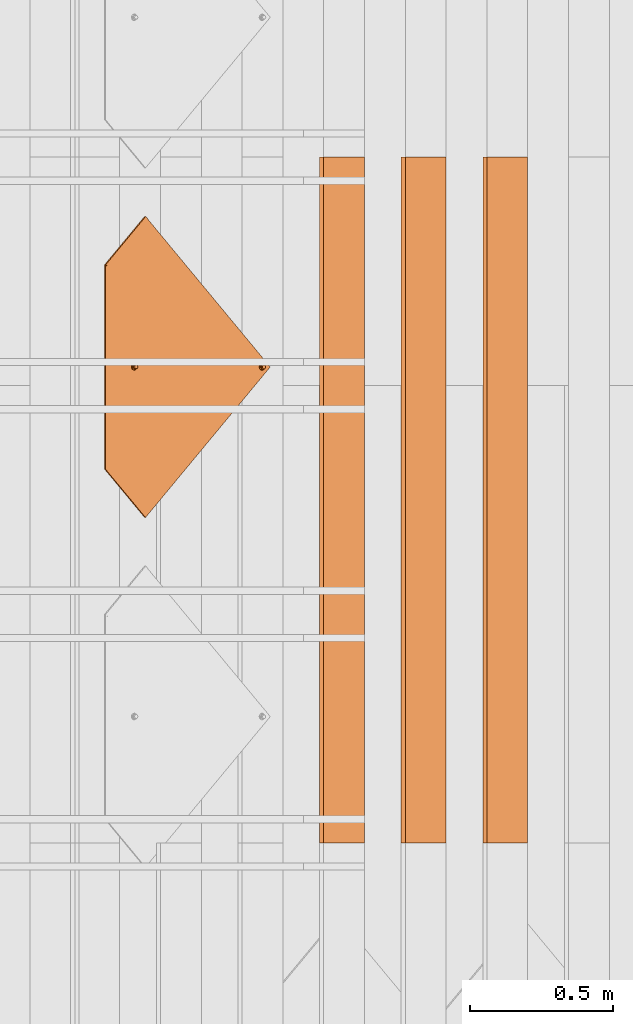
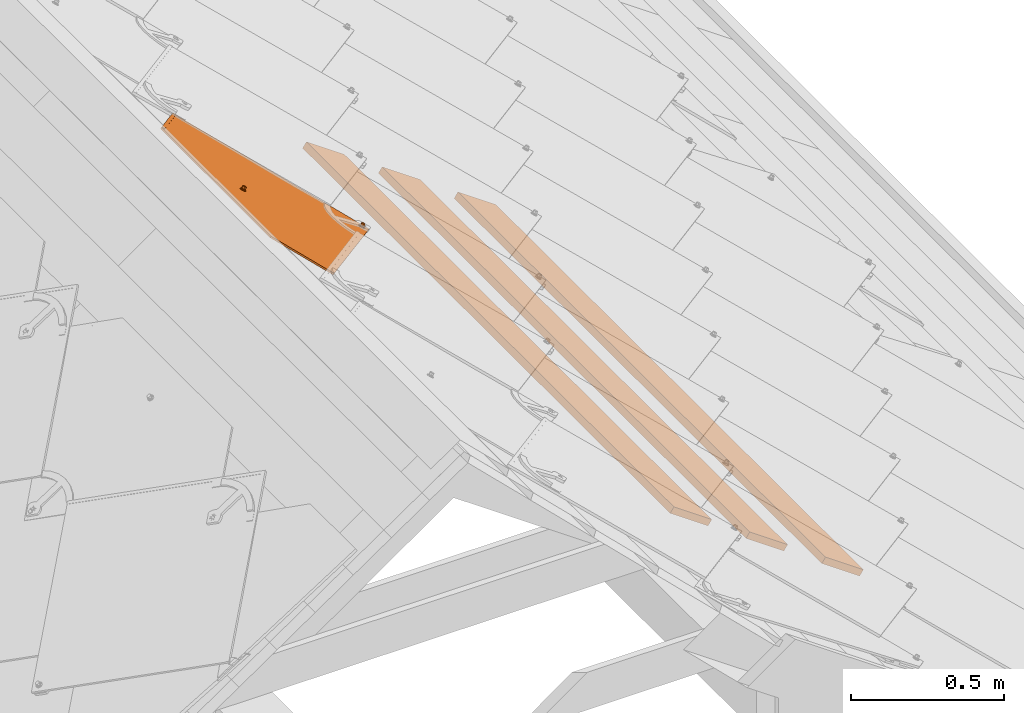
# One storey, part 35 of 151: 4 proxies, 1 element without a shape of its own.
"""IFC2X3 building model written with IfcOpenShell, lengths in millimetres."""

from ifc_helpers import new_model, entity, si_unit, converted_unit, derived_unit, direction, frame, frame_2d, origin, place, context, subcontext, project, spatial, rectangle, extrude, faceted_brep, source, transform, mapped, material, material_list, type_object, type_shapes, element, aggregate, save


model = new_model("IFC2X3")

# Units and contexts
model_context = context("Model", 3, precision=0.01, world=origin(), true_north=direction((6.12303176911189e-17, 1.0)))
body_context = subcontext(model_context, "Body", "Model", "MODEL_VIEW")
ifc_project = project(units=[si_unit("LENGTHUNIT", "METRE", prefix="MILLI"), si_unit("AREAUNIT", "SQUARE_METRE"), si_unit("VOLUMEUNIT", "CUBIC_METRE"), converted_unit("PLANEANGLEUNIT", "DEGREE", entity("IfcRatioMeasure", 0.0174532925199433), si_unit("PLANEANGLEUNIT", "RADIAN"), dimensions=[0, 0, 0, 0, 0, 0, 0]), si_unit("MASSUNIT", "GRAM", prefix="KILO"), derived_unit("MASSDENSITYUNIT", [(si_unit("MASSUNIT", "GRAM", prefix="KILO"), 1), (si_unit("LENGTHUNIT", "METRE"), -3)]), si_unit("TIMEUNIT", "SECOND"), si_unit("FREQUENCYUNIT", "HERTZ"), si_unit("THERMODYNAMICTEMPERATUREUNIT", "DEGREE_CELSIUS"), derived_unit("THERMALTRANSMITTANCEUNIT", [(si_unit("MASSUNIT", "GRAM", prefix="KILO"), 1), (si_unit("THERMODYNAMICTEMPERATUREUNIT", "KELVIN"), -1), (si_unit("TIMEUNIT", "SECOND"), -3)]), derived_unit("VOLUMETRICFLOWRATEUNIT", [(si_unit("LENGTHUNIT", "METRE"), 3), (si_unit("TIMEUNIT", "SECOND"), -1)]), si_unit("ELECTRICCURRENTUNIT", "AMPERE"), si_unit("ELECTRICVOLTAGEUNIT", "VOLT"), si_unit("POWERUNIT", "WATT"), si_unit("FORCEUNIT", "NEWTON", prefix="KILO"), si_unit("ILLUMINANCEUNIT", "LUX"), si_unit("LUMINOUSFLUXUNIT", "LUMEN"), si_unit("LUMINOUSINTENSITYUNIT", "CANDELA"), derived_unit("USERDEFINED", [(si_unit("MASSUNIT", "GRAM", prefix="KILO"), -1), (si_unit("LENGTHUNIT", "METRE"), -2), (si_unit("TIMEUNIT", "SECOND"), 3), (si_unit("LUMINOUSFLUXUNIT", "LUMEN"), 1)]), derived_unit("LINEARVELOCITYUNIT", [(si_unit("LENGTHUNIT", "METRE"), 1), (si_unit("TIMEUNIT", "SECOND"), -1)]), si_unit("PRESSUREUNIT", "PASCAL"), derived_unit("USERDEFINED", [(si_unit("LENGTHUNIT", "METRE"), -2), (si_unit("MASSUNIT", "GRAM", prefix="KILO"), 1), (si_unit("TIMEUNIT", "SECOND"), -2)])], contexts=[model_context])

# Site, building, storey
site_placement = place(None, origin())
site = spatial("IfcSite", under=ifc_project, at=site_placement, Name="Default", CompositionType="ELEMENT")
building_placement = place(site_placement, origin())
building = spatial("IfcBuilding", under=site, at=building_placement, CompositionType="ELEMENT")
storey_placement = place(building_placement, origin())
storey = spatial("IfcBuildingStorey", under=building, at=storey_placement, Name="Level 1", CompositionType="ELEMENT", Elevation=0.0)

# Assembly, proxies
assembly_placement = place(storey_placement, origin())
assembly = element("IfcElementAssembly", 1, at=assembly_placement, inside=storey, Name="Structural Framing Assembly:Roof Construction Assembly", ObjectType="Structural Framing Assembly:Roof Construction Assembly", AssemblyPlace="NOTDEFINED", PredefinedType="USERDEFINED")
ifc_material_1 = material(Name="Wood - Generic - Wood For Showcase")
building_element_proxy_type_1 = type_object("IfcBuildingElementProxyType", Name="Structural Framing 15", PredefinedType="NOTDEFINED", material=ifc_material_1)
shared_shape_1 = source(origin(), body_context, "Body", "SweptSolid", [
    extrude(rectangle(XDim=24.9999999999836, YDim=174.344679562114, at=frame_2d((2.97539770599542e-13, -4.2632564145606e-14), x_axis=(1.0, 0.0))), frame((1285.35601305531, 1525.55080214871, 2760.23940055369), z_axis=(0.0, 1.0, 0.0), x_axis=(0.573576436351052, 0.0, 0.819152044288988)), (0.0, 0.0, 1.0), 2400.0),
])
type_shapes(building_element_proxy_type_1, [shared_shape_1])
proxy_1_placement = place(assembly_placement, frame((914.376675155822, -7270.0, -600.0)))
proxy_1 = element("IfcBuildingElementProxy", 2, at=proxy_1_placement, type_object=building_element_proxy_type_1, material=ifc_material_1, Name="Structural Framing 188:Structural Framing 15", ObjectType="Structural Framing 188:Structural Framing 15", context=body_context, shape_type="MappedRepresentation", body=[
    mapped(shared_shape_1, transform((0.0, 0.0, 0.0), scale=1.0)),
])
building_element_proxy_type_2 = type_object("IfcBuildingElementProxyType", Name="Structural Framing 15", PredefinedType="NOTDEFINED", material=ifc_material_1)
shared_shape_2 = source(origin(), body_context, "Body", "SweptSolid", [
    extrude(rectangle(XDim=24.9999999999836, YDim=174.344679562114, at=frame_2d((2.97539770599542e-13, -4.2632564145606e-14), x_axis=(1.0, 0.0))), frame((1285.35601305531, 1525.55080214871, 2760.23940055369), z_axis=(0.0, 1.0, 0.0), x_axis=(0.573576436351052, 0.0, 0.819152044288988)), (0.0, 0.0, 1.0), 2400.0),
])
type_shapes(building_element_proxy_type_2, [shared_shape_2])
proxy_2_placement = place(assembly_placement, frame((1200.00627650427, -7270.0, -800.0)))
proxy_2 = element("IfcBuildingElementProxy", 3, at=proxy_2_placement, type_object=building_element_proxy_type_2, material=ifc_material_1, Name="Structural Framing 198:Structural Framing 15", ObjectType="Structural Framing 198:Structural Framing 15", context=body_context, shape_type="MappedRepresentation", body=[
    mapped(shared_shape_2, transform((0.0, 0.0, 0.0), scale=1.0)),
])
building_element_proxy_type_3 = type_object("IfcBuildingElementProxyType", Name="Structural Framing 15", PredefinedType="NOTDEFINED", material=ifc_material_1)
shared_shape_3 = source(origin(), body_context, "Body", "SweptSolid", [
    extrude(rectangle(XDim=24.9999999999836, YDim=174.344679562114, at=frame_2d((2.97539770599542e-13, -4.2632564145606e-14), x_axis=(1.0, 0.0))), frame((1285.35601305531, 1525.55080214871, 2760.23940055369), z_axis=(0.0, 1.0, 0.0), x_axis=(0.573576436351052, 0.0, 0.819152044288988)), (0.0, 0.0, 1.0), 2400.0),
])
type_shapes(building_element_proxy_type_3, [shared_shape_3])
proxy_3_placement = place(assembly_placement, frame((1485.63587785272, -7270.0, -1000.0)))
proxy_3 = element("IfcBuildingElementProxy", 4, at=proxy_3_placement, type_object=building_element_proxy_type_3, material=ifc_material_1, Name="Structural Framing 208:Structural Framing 15", ObjectType="Structural Framing 208:Structural Framing 15", context=body_context, shape_type="MappedRepresentation", body=[
    mapped(shared_shape_3, transform((0.0, 0.0, 0.0), scale=1.0)),
])
aggregate(assembly, [proxy_1, proxy_2, proxy_3])

# Proxy
ifc_material_2 = material(Name="Rubber - Sunstyle - Black")
ifc_material_3 = material(Name="Glass - Sunstyle - Tainted Black")
ifc_material_list_1 = material_list([ifc_material_2, ifc_material_3])
ifc_material_list_2 = material_list([ifc_material_2, ifc_material_3])
building_element_proxy_type_4 = type_object("IfcBuildingElementProxyType", Name="Shingle Top - Black", PredefinedType="NOTDEFINED", material=ifc_material_list_2)
shared_shape_4 = source(origin(), body_context, "Body", "Brep", [
    faceted_brep([(-518.396436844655, -96.9865733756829, 16.4476231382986), (-518.396436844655, -96.9614556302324, 17.9474128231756), (-526.881123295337, -88.4767691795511, 17.8053154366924), (-526.881123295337, -88.5018869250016, 16.3055257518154), (-376.996804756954, 61.3404039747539, 13.7960402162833), (-368.512118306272, 52.8557175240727, 13.9381376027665), (-376.996804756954, 61.3655217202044, 15.2958299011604), (-368.512118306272, 52.8808352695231, 15.4379272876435)], [[[0, 1, 2, 3]], [[0, 3, 4, 5]], [[3, 2, 6, 4]], [[2, 1, 7, 6]], [[1, 0, 5, 7]], [[5, 4, 6, 7]]]),
    faceted_brep([(0.166366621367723, -33.6374645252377, -4.47296585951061), (-5.6078362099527, -36.9707346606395, -4.4171418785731), (-5.60783620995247, -36.6024255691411, 17.5747274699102), (0.166366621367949, -33.2691554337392, 17.5189034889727), (-5.60783620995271, -43.6372749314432, -4.30549391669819), (-5.60783620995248, -43.2689658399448, 17.6863754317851), (0.166366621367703, -46.9705450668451, -4.24966993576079), (0.166366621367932, -46.6022359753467, 17.7421994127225), (5.94056945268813, -43.6372749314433, -4.30549391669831), (5.94056945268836, -43.2689658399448, 17.686375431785), (5.94056945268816, -36.9707346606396, -4.41714187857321), (5.94056945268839, -36.6024255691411, 17.5747274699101), (-8.43733754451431, -48.5381935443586, 17.774621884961), (0.16636662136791, -52.1014648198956, 17.8342978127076), (-12.0011084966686, -39.9356957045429, 17.6305514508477), (-8.43733754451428, -31.3331978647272, 17.4864810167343), (0.166366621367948, -27.7699265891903, 17.4268050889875), (8.77007078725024, -31.3331978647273, 17.4864810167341), (12.3338417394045, -39.935695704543, 17.6305514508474), (8.77007078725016, -48.5381935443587, 17.7746218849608), (-11.1578780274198, -37.6406185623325, 19.9433933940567), (-9.59010793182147, -39.8646808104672, 21.8708760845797), (0.166366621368, -32.5516055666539, 22.5035764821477), (0.166366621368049, -31.3111079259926, 21.9232298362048), (0.166366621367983, -29.1535570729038, 20.9138547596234), (0.166366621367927, -51.5454208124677, 19.1093557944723), (0.166366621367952, -50.6018442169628, 21.273060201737), (0.166366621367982, -47.1524685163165, 22.7481046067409), (0.166366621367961, -28.2829626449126, 18.7197675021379), (-6.15687907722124, -43.5022527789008, 22.6869725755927), (-6.15687907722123, -36.2018213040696, 22.5647085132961), (11.4906112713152, -42.1520387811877, 20.0189484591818), (10.0152467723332, -40.9390872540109, 21.7920079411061), (6.48961231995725, -36.2018213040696, 22.564708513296), (6.48961231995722, -43.5022527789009, 22.6869725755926), (-6.15687907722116, -43.3682243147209, 30.68986075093), (0.166366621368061, -47.0184400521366, 30.7509927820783), (0.166366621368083, -39.7180085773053, 30.6287287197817), (-6.15687907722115, -36.0677928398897, 30.5675966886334), (6.48961231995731, -43.368224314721, 30.6898607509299), (6.48961231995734, -36.0677928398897, 30.5675966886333), (0.166366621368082, -32.417577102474, 30.5064646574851), (0.166366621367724, -40.3040047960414, -4.36131789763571)], [[[0, 1, 2, 3]], [[1, 4, 5, 2]], [[4, 6, 7, 5]], [[6, 8, 9, 7]], [[8, 10, 11, 9]], [[10, 0, 3, 11]], [[12, 7, 13]], [[7, 12, 5]], [[14, 5, 12]], [[5, 14, 2]], [[15, 2, 14]], [[3, 2, 15]], [[15, 16, 3]], [[16, 17, 3]], [[11, 3, 17]], [[11, 17, 18]], [[9, 11, 18]], [[18, 19, 9]], [[7, 9, 19]], [[19, 13, 7]], [[20, 14, 12]], [[21, 22, 23, 24]], [[24, 20, 21]], [[25, 20, 12]], [[26, 27, 21]], [[15, 14, 20]], [[12, 13, 25]], [[20, 28, 15]], [[28, 20, 24]], [[21, 27, 29]], [[21, 29, 30]], [[26, 21, 20]], [[20, 25, 26]], [[15, 28, 16]], [[21, 30, 22]], [[31, 18, 17]], [[28, 31, 17]], [[32, 27, 26]], [[26, 31, 32]], [[26, 25, 31]], [[25, 19, 31]], [[17, 16, 28]], [[31, 19, 18]], [[24, 31, 28]], [[33, 34, 32]], [[23, 22, 33]], [[24, 32, 31]], [[27, 32, 34]], [[32, 23, 33]], [[19, 25, 13]], [[32, 24, 23]], [[35, 36, 37]], [[37, 38, 35]], [[36, 39, 37]], [[40, 37, 39]], [[37, 40, 41]], [[37, 41, 38]], [[42, 6, 4]], [[4, 1, 42]], [[1, 0, 42]], [[42, 8, 6]], [[0, 10, 42]], [[8, 42, 10]], [[22, 30, 38, 41]], [[30, 29, 35, 38]], [[29, 27, 36, 35]], [[27, 34, 39, 36]], [[34, 33, 40, 39]], [[33, 22, 41, 40]]]),
    faceted_brep([(0.0, -573.927138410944, 4.00636906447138), (-5.77420283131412, -577.260408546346, 4.0621930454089), (-5.77420283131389, -576.892099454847, 26.0540623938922), (0.0, -573.558829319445, 25.9982384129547), (-5.77420283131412, -583.926948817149, 4.1738410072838), (-5.7742028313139, -583.558639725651, 26.1657103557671), (0.0, -587.260218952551, 4.2296649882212), (0.0, -586.891909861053, 26.2215343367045), (5.77420283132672, -583.926948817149, 4.17384100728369), (5.77420283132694, -583.558639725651, 26.165710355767), (5.77420283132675, -577.260408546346, 4.06219304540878), (5.77420283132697, -576.892099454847, 26.0540623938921), (-8.60370416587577, -588.827867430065, 26.253956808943), (0.0, -592.391138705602, 26.3136327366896), (-12.1674751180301, -580.225369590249, 26.1098863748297), (-8.60370416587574, -571.622871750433, 25.9658159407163), (0.0, -568.059600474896, 25.9061400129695), (8.60370416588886, -571.622871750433, 25.9658159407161), (12.1674751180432, -580.225369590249, 26.1098863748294), (8.60370416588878, -588.827867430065, 26.2539568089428), (-11.3242446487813, -577.930292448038, 28.4227283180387), (-9.75647455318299, -580.154354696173, 30.3502110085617), (0.0, -572.84127945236, 30.9829114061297), (0.0, -571.600781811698, 30.4025647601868), (0.0, -569.44323095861, 29.3931896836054), (0.0, -591.835094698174, 27.5886907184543), (0.0, -590.891518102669, 29.752395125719), (0.0, -587.442142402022, 31.227439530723), (0.0, -568.572636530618, 27.1991024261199), (-6.32324569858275, -583.791926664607, 31.1663074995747), (-6.32324569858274, -576.491495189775, 31.0440434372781), (11.3242446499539, -582.441712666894, 28.4982833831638), (9.84888015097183, -581.228761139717, 30.2713428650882), (6.32324569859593, -576.491495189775, 31.044043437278), (6.32324569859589, -583.791926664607, 31.1663074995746), (-6.32324569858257, -583.657898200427, 39.169195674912), (0.0, -587.308113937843, 39.2303277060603), (0.0, -580.007682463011, 39.1080636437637), (-6.32324569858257, -576.357466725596, 39.0469316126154), (6.32324569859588, -583.657898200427, 39.1691956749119), (6.32324569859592, -576.357466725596, 39.0469316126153), (0.0, -572.70725098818, 38.9857995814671), (0.0, -580.593678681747, 4.11801702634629)], [[[0, 1, 2, 3]], [[1, 4, 5, 2]], [[4, 6, 7, 5]], [[6, 8, 9, 7]], [[8, 10, 11, 9]], [[10, 0, 3, 11]], [[12, 7, 13]], [[7, 12, 5]], [[14, 5, 12]], [[5, 14, 2]], [[15, 2, 14]], [[3, 2, 15]], [[15, 16, 3]], [[16, 17, 3]], [[11, 3, 17]], [[11, 17, 18]], [[9, 11, 18]], [[18, 19, 9]], [[7, 9, 19]], [[19, 13, 7]], [[20, 14, 12]], [[21, 22, 23, 24]], [[24, 20, 21]], [[25, 20, 12]], [[26, 27, 21]], [[15, 14, 20]], [[12, 13, 25]], [[20, 28, 15]], [[28, 20, 24]], [[21, 27, 29]], [[21, 29, 30]], [[26, 21, 20]], [[20, 25, 26]], [[15, 28, 16]], [[21, 30, 22]], [[31, 18, 17]], [[28, 31, 17]], [[32, 27, 26]], [[26, 31, 32]], [[26, 25, 31]], [[25, 19, 31]], [[17, 16, 28]], [[31, 19, 18]], [[24, 31, 28]], [[33, 34, 32]], [[23, 22, 33]], [[24, 32, 31]], [[27, 32, 34]], [[32, 23, 33]], [[19, 25, 13]], [[32, 24, 23]], [[35, 36, 37]], [[37, 38, 35]], [[36, 39, 37]], [[40, 37, 39]], [[37, 40, 41]], [[37, 41, 38]], [[42, 6, 4]], [[4, 1, 42]], [[1, 0, 42]], [[42, 8, 6]], [[0, 10, 42]], [[8, 42, 10]], [[22, 30, 38, 41]], [[30, 29, 35, 38]], [[29, 27, 36, 35]], [[27, 34, 39, 36]], [[34, 33, 40, 39]], [[33, 22, 41, 40]]]),
    faceted_brep([(518.482751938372, -96.8754983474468, 17.9260478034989), (526.967438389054, -88.3908118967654, 17.7839504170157), (526.967438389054, -88.3656941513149, 19.2837401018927), (518.482751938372, -96.8503806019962, 19.4258374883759), (349.749400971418, 71.8105397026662, 15.1009763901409), (358.234087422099, 80.2952261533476, 14.9588790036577), (358.234087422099, 80.3203438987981, 16.4586686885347), (349.749400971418, 71.8356574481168, 16.6007660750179)], [[[0, 1, 2, 3]], [[1, 0, 4, 5]], [[2, 1, 5, 6]], [[3, 2, 6, 7]], [[0, 3, 7, 4]], [[4, 7, 6, 5]]]),
    faceted_brep([(358.234087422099, 80.2952261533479, 14.9588790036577), (6.94661128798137, -35.8890860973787, 16.9046771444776), (7.74581466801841, -37.8182632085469, 16.9369860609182), (5.67526230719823, -34.2324641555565, 16.8769328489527), (8.01840805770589, -39.8885252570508, 16.9716577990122), (7.74581466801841, -41.9587873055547, 17.0063295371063), (6.94661128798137, -43.8879644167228, 17.0386384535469), (526.967438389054, -88.3908118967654, 17.7839504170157), (4.01840805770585, -32.9612934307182, 16.855643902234), (2.08896041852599, -32.1622021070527, 16.8422611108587), (0.0184080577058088, -31.8896469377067, 16.8376964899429), (-358.233442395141, 80.2952261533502, 14.9588790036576), (-2.05214430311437, -32.1622021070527, 16.8422611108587), (-3.98159194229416, -32.9612934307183, 16.855643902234), (-5.63844619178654, -34.2324641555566, 16.8769328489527), (-6.90979517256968, -35.8890860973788, 16.9046771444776), (-7.70899855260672, -37.8182632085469, 16.9369860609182), (-7.98159194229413, -39.8885252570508, 16.9716577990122), (-7.70899855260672, -41.9587873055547, 17.0063295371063), (-6.90979517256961, -43.8879644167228, 17.0386384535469), (-526.966793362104, -88.390811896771, 17.7839504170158), (-5.63844619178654, -45.544586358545, 17.0663827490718), (-5.6568542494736, -574.226981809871, 25.9204974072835), (-6.92820323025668, -575.883603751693, 25.9482417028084), (-7.72740661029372, -577.812780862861, 25.980550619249), (-8.0, -579.883042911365, 26.015222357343), (-7.72740661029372, -581.953304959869, 26.049894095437), (0.000322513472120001, -615.210165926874, 26.6068637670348), (7.72740661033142, -581.953304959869, 26.049894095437), (6.92820323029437, -583.882482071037, 26.0822030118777), (5.65685424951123, -585.53910401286, 26.1099473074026), (4.0, -586.810274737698, 26.1312362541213), (2.070552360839, -587.609366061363, 26.1446190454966), (0.0, -587.881921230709, 26.1491836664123), (-2.0705523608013, -587.609366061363, 26.1446190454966), (-4.0, -586.810274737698, 26.1312362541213), (-5.65685424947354, -585.53910401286, 26.1099473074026), (-6.92820323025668, -583.882482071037, 26.0822030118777), (-4.0, -572.955811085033, 25.8992084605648), (-3.98159194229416, -46.8157570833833, 17.0876716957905), (-2.07055236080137, -572.156719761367, 25.8858256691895), (-2.05214430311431, -47.614848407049, 17.1010544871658), (0.0, -571.884164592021, 25.8812610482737), (0.0184080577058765, -47.8874035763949, 17.1056191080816), (2.07055236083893, -572.156719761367, 25.8858256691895), (2.08896041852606, -47.6148484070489, 17.1010544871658), (4.0, -572.955811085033, 25.8992084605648), (4.01840805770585, -46.8157570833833, 17.0876716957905), (5.65685424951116, -574.226981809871, 25.9204974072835), (5.67526230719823, -45.544586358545, 17.0663827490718), (6.92820323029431, -575.883603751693, 25.9482417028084), (7.72740661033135, -577.812780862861, 25.980550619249), (8.0, -579.883042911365, 26.015222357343), (-358.233442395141, 80.1947551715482, 8.9597202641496), (-6.90979517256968, -35.9895570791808, 10.9055184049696), (-7.70899855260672, -37.9187341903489, 10.9378273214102), (-5.63844619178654, -34.3329351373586, 10.8777741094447), (-7.98159194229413, -39.9889962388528, 10.9724990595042), (-7.70899855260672, -42.0592582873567, 11.0071707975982), (-6.90979517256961, -43.9884353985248, 11.0394797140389), (-526.966793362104, -88.4912828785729, 11.7847916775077), (-3.98159194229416, -33.0617644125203, 10.856485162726), (-2.05214430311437, -32.2626730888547, 10.8431023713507), (0.0184080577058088, -31.9901179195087, 10.8385377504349), (358.234087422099, 80.1947551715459, 8.95972026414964), (2.08896041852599, -32.2626730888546, 10.8431023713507), (4.01840805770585, -33.0617644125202, 10.856485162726), (5.67526230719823, -34.3329351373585, 10.8777741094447), (6.94661128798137, -35.9895570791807, 10.9055184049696), (7.74581466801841, -37.9187341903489, 10.9378273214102), (8.01840805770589, -39.9889962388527, 10.9724990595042), (7.74581466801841, -42.0592582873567, 11.0071707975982), (6.94661128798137, -43.9884353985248, 11.0394797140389), (526.967438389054, -88.4912828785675, 11.7847916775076), (5.67526230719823, -45.645057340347, 11.0672240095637), (5.65685424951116, -574.327452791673, 19.9213386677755), (6.92820323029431, -575.984074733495, 19.9490829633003), (7.72740661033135, -577.913251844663, 19.981391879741), (8.0, -579.983513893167, 20.016063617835), (7.72740661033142, -582.053775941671, 20.050735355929), (0.000322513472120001, -615.310636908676, 20.6077050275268), (-7.72740661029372, -582.053775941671, 20.050735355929), (-6.92820323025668, -583.982953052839, 20.0830442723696), (-5.65685424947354, -585.639574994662, 20.1107885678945), (-4.0, -586.9107457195, 20.1320775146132), (-2.0705523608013, -587.709837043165, 20.1454603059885), (0.0, -587.982392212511, 20.1500249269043), (2.070552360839, -587.709837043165, 20.1454603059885), (4.0, -586.9107457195, 20.1320775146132), (5.65685424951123, -585.639574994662, 20.1107885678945), (6.92820323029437, -583.982953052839, 20.0830442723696), (4.01840805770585, -46.9162280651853, 11.0885129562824), (4.0, -573.056282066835, 19.9000497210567), (2.08896041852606, -47.7153193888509, 11.1018957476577), (2.07055236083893, -572.257190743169, 19.8866669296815), (0.0184080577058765, -47.9878745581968, 11.1064603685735), (0.0, -571.984635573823, 19.8821023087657), (-2.05214430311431, -47.7153193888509, 11.1018957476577), (-2.07055236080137, -572.257190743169, 19.8866669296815), (-3.98159194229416, -46.9162280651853, 11.0885129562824), (-4.0, -573.056282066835, 19.9000497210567), (-5.63844619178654, -45.645057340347, 11.0672240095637), (-5.6568542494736, -574.327452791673, 19.9213386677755), (-6.92820323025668, -575.984074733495, 19.9490829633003), (-7.72740661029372, -577.913251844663, 19.981391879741), (-8.0, -579.983513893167, 20.016063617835)], [[[0, 1, 2]], [[1, 0, 3]], [[0, 2, 4]], [[4, 5, 0]], [[5, 6, 0]], [[7, 0, 6]], [[8, 3, 0]], [[9, 8, 0]], [[10, 9, 0]], [[0, 11, 10]], [[12, 10, 11]], [[13, 12, 11]], [[14, 13, 11]], [[11, 15, 14]], [[15, 11, 16]], [[16, 11, 17]], [[11, 18, 17]], [[18, 11, 19]], [[11, 20, 19]], [[19, 20, 21]], [[20, 22, 21]], [[23, 22, 20]], [[24, 23, 20]], [[24, 20, 25]], [[26, 25, 20]], [[27, 26, 20]], [[7, 28, 27]], [[29, 27, 28]], [[27, 29, 30]], [[30, 31, 27]], [[31, 32, 27]], [[27, 32, 33]], [[27, 33, 34]], [[34, 35, 27]], [[27, 35, 36]], [[36, 37, 27]], [[37, 26, 27]], [[38, 21, 22]], [[38, 39, 21]], [[38, 40, 39]], [[40, 41, 39]], [[40, 42, 41]], [[41, 42, 43]], [[44, 43, 42]], [[44, 45, 43]], [[45, 44, 46]], [[46, 47, 45]], [[46, 48, 47]], [[48, 49, 47]], [[50, 7, 48]], [[48, 7, 49]], [[7, 50, 51]], [[7, 51, 52]], [[52, 28, 7]], [[7, 6, 49]], [[53, 54, 55]], [[54, 53, 56]], [[53, 55, 57]], [[58, 53, 57]], [[59, 53, 58]], [[60, 53, 59]], [[61, 56, 53]], [[62, 61, 53]], [[53, 63, 62]], [[63, 53, 64]], [[65, 63, 64]], [[66, 65, 64]], [[64, 67, 66]], [[67, 64, 68]], [[68, 64, 69]], [[70, 69, 64]], [[71, 70, 64]], [[72, 71, 64]], [[72, 64, 73]], [[72, 73, 74]], [[74, 73, 75]], [[73, 76, 75]], [[76, 73, 77]], [[77, 73, 78]], [[79, 78, 73]], [[79, 73, 80]], [[60, 81, 80]], [[80, 81, 82]], [[80, 82, 83]], [[83, 84, 80]], [[84, 85, 80]], [[85, 86, 80]], [[80, 86, 87]], [[80, 87, 88]], [[80, 88, 89]], [[79, 80, 90]], [[80, 89, 90]], [[75, 91, 74]], [[75, 92, 91]], [[92, 93, 91]], [[93, 92, 94]], [[93, 94, 95]], [[96, 95, 94]], [[97, 95, 96]], [[96, 98, 97]], [[98, 99, 97]], [[98, 100, 99]], [[100, 101, 99]], [[100, 102, 101]], [[60, 101, 102]], [[103, 60, 102]], [[103, 104, 60]], [[104, 105, 60]], [[105, 81, 60]], [[59, 101, 60]], [[27, 20, 60, 80]], [[7, 27, 80, 73]], [[0, 7, 73, 64]], [[25, 105, 104, 24]], [[24, 104, 103, 23]], [[38, 22, 102, 100]], [[102, 22, 23, 103]], [[40, 38, 100, 98]], [[40, 98, 96, 42]], [[42, 96, 94, 44]], [[44, 94, 92, 46]], [[50, 48, 75, 76]], [[75, 48, 46, 92]], [[51, 50, 76, 77]], [[51, 77, 78, 52]], [[52, 78, 79, 28]], [[28, 79, 90, 29]], [[31, 30, 89, 88]], [[29, 90, 89, 30]], [[87, 32, 31, 88]], [[32, 87, 86, 33]], [[34, 33, 86, 85]], [[34, 85, 84, 35]], [[37, 36, 83, 82]], [[35, 84, 83, 36]], [[37, 82, 81, 26]], [[26, 81, 105, 25]], [[17, 57, 55, 16]], [[16, 55, 54, 15]], [[13, 14, 56, 61]], [[56, 14, 15, 54]], [[12, 13, 61, 62]], [[12, 62, 63, 10]], [[10, 63, 65, 9]], [[9, 65, 66, 8]], [[1, 3, 67, 68]], [[67, 3, 8, 66]], [[2, 1, 68, 69]], [[2, 69, 70, 4]], [[4, 70, 71, 5]], [[5, 71, 72, 6]], [[47, 49, 74, 91]], [[74, 49, 6, 72]], [[45, 47, 91, 93]], [[45, 93, 95, 43]], [[43, 95, 97, 41]], [[41, 97, 99, 39]], [[19, 21, 101, 59]], [[101, 21, 39, 99]], [[18, 19, 59, 58]], [[18, 58, 57, 17]], [[11, 0, 64, 53]], [[20, 11, 53, 60]]]),
])
type_shapes(building_element_proxy_type_4, [shared_shape_4])
proxy_4_placement = place(storey_placement, frame((1429.25691597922, -4078.87513681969, 2714.99202663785), z_axis=(0.573576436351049, 0.0, 0.81915204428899), x_axis=(0.0, 1.0, 0.0)))
element("IfcBuildingElementProxy", 5, at=proxy_4_placement, inside=storey, type_object=building_element_proxy_type_4, material=ifc_material_list_1, Name="Roofing_Panels_SunStyle_Tile_Shingle-Top:Shingle Top - Black", ObjectType="Roofing_Panels_SunStyle_Tile_Shingle-Top:Shingle Top - Black", context=body_context, shape_type="MappedRepresentation", body=[
    mapped(shared_shape_4, transform((0.0, 0.0, 0.0), scale=1.0)),
])

save(model, "model.ifc")
